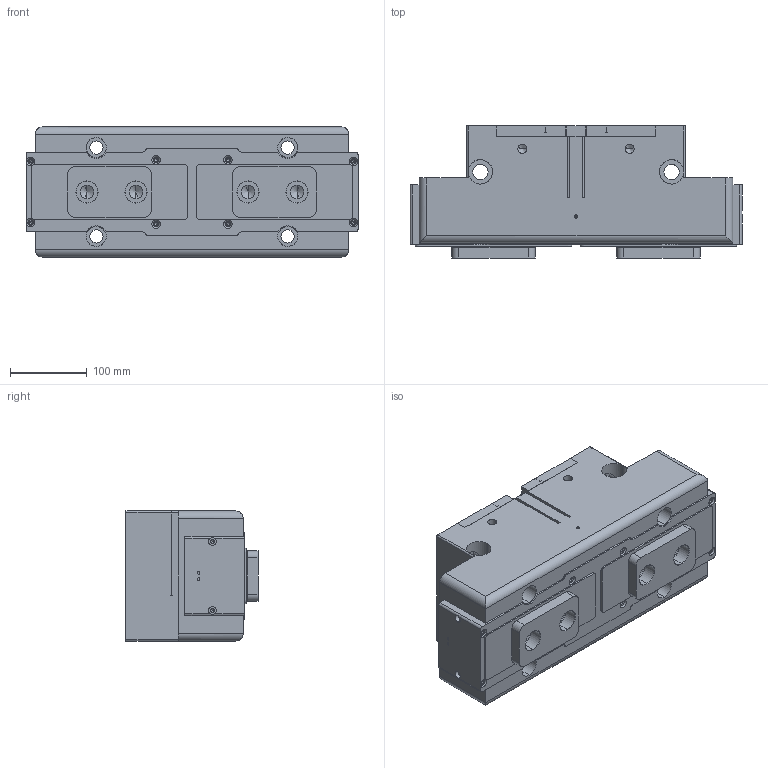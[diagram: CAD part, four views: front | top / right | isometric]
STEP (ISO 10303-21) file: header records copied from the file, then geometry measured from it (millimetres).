
FILE_DESCRIPTION (( 'STEP AP214' ), '1' );
FILE_NAME ('TWN-380A-1-SD.STEP', '2019-12-10T08:35:31', ( '' ), ( '' ), 'SwSTEP 2.0', 'SolidWorks 2016', '' );
FILE_SCHEMA (( 'AUTOMOTIVE_DESIGN' ));
Length unit declared in the file: millimetre
Products named in the file (7): TWN-380A-1-SD-06; TWN-380A-1-SD-03; TWN-380A-1-SD; TWN-380A-1-SD-04; TWN-380A-1-SD-01; TWN-380A-1-SD-05; TWN-380A-1-SD-02
Assembly tree (9 placements, depth 2):
  TWN-380A-1-SD
    TWN-380A-1-SD-01
    TWN-380A-1-SD-03
    TWN-380A-1-SD-02  x2
    TWN-380A-1-SD-04
    TWN-380A-1-SD-05  x2
    TWN-380A-1-SD-06  x2
Bounding box: 433.8 x 172.5 x 170 mm (x, y, z)
Volume: 8669260.6 mm3; surface area: 857400.7 mm2
Topology: 9 solids, 12 shells, 706 faces, 1896 edges, 1204 vertices
Faces by surface type: cylinder 310, plane 288, cone 108
Entity records: 20379 total; most frequent: CARTESIAN_POINT 4057, DIRECTION 3263, ORIENTED_EDGE 3030, EDGE_CURVE 1515, AXIS2_PLACEMENT_3D 1190, VERTEX_POINT 1000, VECTOR 883, LINE 883
